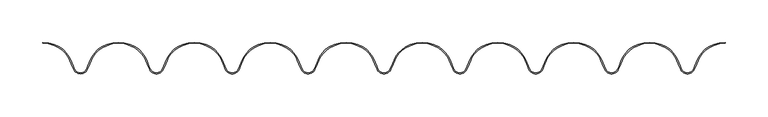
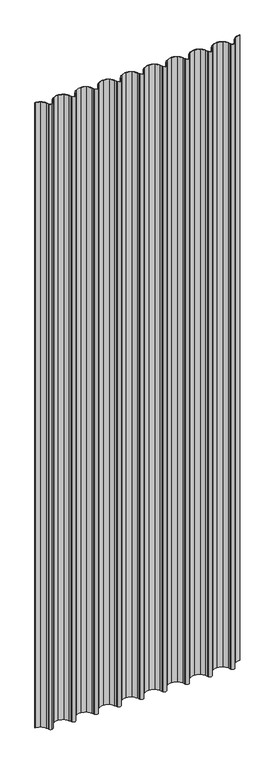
"""IFC4 building model written with IfcOpenShell, lengths in millimetres: plate geometry, Regolare Couverture 801  : Regolare Couverture 801 ."""

from ifc_helpers import new_model, si_unit, point, frame_2d, origin, origin_with_axes, place, context, project, spatial, polyline, circle_curve, trimmed, segment, composite_curve, outline, extrude, source, transform, mapped, element, save


def plate_92b322d1(model_context):
    return source(origin(), model_context, "Body", "SweptSolid", [
        extrude(outline(composite_curve([segment(trimmed(circle_curve(frame_2d((-400.7317009, -1.5098563)), 37.4503244), [point((-381.1909507, 30.4383187))], [point((-400.7317009, 35.9404682))], True, "CARTESIAN"), True, "CONTINUOUS"), segment(polyline([(-400.7317009, 35.9404682), (-400.7317009, 36.9404682)]), True, "CONTINUOUS"), segment(trimmed(circle_curve(frame_2d((-400.7317009, -1.5098563)), 38.4503244), [point((-400.7317009, 36.9404682))], [point((-380.6691729, 31.2914001))], False, "CARTESIAN"), True, "CONTINUOUS"), segment(trimmed(circle_curve(frame_2d((-397.1660556, 4.3198001)), 31.6166783), [point((-380.6691729, 31.2914001))], [point((-367.8105714, 16.0616012))], False, "CARTESIAN"), True, "CONTINUOUS"), segment(polyline([(-367.8105714, 16.0616012), (-364.9413497, 8.8980757), (-363.294996, 5.4633665)]), True, "CONTINUOUS"), segment(trimmed(circle_curve(frame_2d((-356.2059563, 8.8613445)), 7.8613445), [point((-363.294996, 5.4633665))], [point((-356.2059563, 1.0))], True, "CARTESIAN"), True, "CONTINUOUS"), segment(trimmed(circle_curve(frame_2d((-356.2059563, 8.8613445)), 7.8613445), [point((-356.2059563, 1.0))], [point((-349.1169167, 5.4633665))], True, "CARTESIAN"), True, "CONTINUOUS"), segment(polyline([(-349.1169167, 5.4633665), (-347.470563, 8.8980757), (-344.6013413, 16.061601)]), True, "CONTINUOUS"), segment(trimmed(circle_curve(frame_2d((-315.245857, 4.3198001)), 31.6166783), [point((-344.6013413, 16.061601))], [point((-331.7427398, 31.2914001))], False, "CARTESIAN"), True, "CONTINUOUS"), segment(trimmed(circle_curve(frame_2d((-311.6802118, -1.5098563)), 38.4503244), [point((-331.7427398, 31.2914001))], [point((-311.6802118, 36.9404682))], False, "CARTESIAN"), True, "CONTINUOUS"), segment(trimmed(circle_curve(frame_2d((-311.6802118, -1.5098563)), 38.4503244), [point((-311.6802118, 36.9404682))], [point((-291.6176838, 31.2914001))], False, "CARTESIAN"), True, "CONTINUOUS"), segment(trimmed(circle_curve(frame_2d((-308.1145665, 4.3198001)), 31.6166783), [point((-291.6176838, 31.2914001))], [point((-278.7590823, 16.0616012))], False, "CARTESIAN"), True, "CONTINUOUS"), segment(polyline([(-278.7590823, 16.0616012), (-275.8898606, 8.8980757), (-274.2435069, 5.4633665)]), True, "CONTINUOUS"), segment(trimmed(circle_curve(frame_2d((-267.1544672, 8.8613445)), 7.8613445), [point((-274.2435069, 5.4633665))], [point((-260.0654276, 5.4633665))], True, "CARTESIAN"), True, "CONTINUOUS"), segment(polyline([(-260.0654276, 5.4633665), (-258.4190739, 8.8980757), (-255.5498522, 16.0616012)]), True, "CONTINUOUS"), segment(trimmed(circle_curve(frame_2d((-226.1943679, 4.3198001)), 31.6166783), [point((-255.5498522, 16.0616012))], [point((-242.6912507, 31.2914001))], False, "CARTESIAN"), True, "CONTINUOUS"), segment(trimmed(circle_curve(frame_2d((-222.6287227, -1.5098563)), 38.4503244), [point((-242.6912507, 31.2914001))], [point((-222.6287227, 36.9404682))], False, "CARTESIAN"), True, "CONTINUOUS"), segment(trimmed(circle_curve(frame_2d((-222.6287227, -1.5098563)), 38.4503244), [point((-222.6287227, 36.9404682))], [point((-202.5661947, 31.2914001))], False, "CARTESIAN"), True, "CONTINUOUS"), segment(trimmed(circle_curve(frame_2d((-219.0630775, 4.3198001)), 31.6166783), [point((-202.5661947, 31.2914001))], [point((-189.7075932, 16.0616012))], False, "CARTESIAN"), True, "CONTINUOUS"), segment(polyline([(-189.7075932, 16.0616012), (-186.8383715, 8.8980757), (-185.1920178, 5.4633665)]), True, "CONTINUOUS"), segment(trimmed(circle_curve(frame_2d((-178.1029782, 8.8613445)), 7.8613445), [point((-185.1920178, 5.4633665))], [point((-171.0139385, 5.4633665))], True, "CARTESIAN"), True, "CONTINUOUS"), segment(polyline([(-171.0139385, 5.4633665), (-169.3675848, 8.8980757), (-166.4983631, 16.0616012)]), True, "CONTINUOUS"), segment(trimmed(circle_curve(frame_2d((-137.1428789, 4.3198001)), 31.6166783), [point((-166.4983631, 16.0616012))], [point((-153.6397616, 31.2914001))], False, "CARTESIAN"), True, "CONTINUOUS"), segment(trimmed(circle_curve(frame_2d((-133.5772336, -1.5098563)), 38.4503244), [point((-153.6397616, 31.2914001))], [point((-133.5772336, 36.9404682))], False, "CARTESIAN"), True, "CONTINUOUS"), segment(trimmed(circle_curve(frame_2d((-133.5772336, -1.5098563)), 38.4503244), [point((-133.5772336, 36.9404682))], [point((-113.5147056, 31.2914001))], False, "CARTESIAN"), True, "CONTINUOUS"), segment(trimmed(circle_curve(frame_2d((-130.0115884, 4.3198001)), 31.6166783), [point((-113.5147056, 31.2914001))], [point((-100.6561042, 16.0616012))], False, "CARTESIAN"), True, "CONTINUOUS"), segment(polyline([(-100.6561042, 16.0616012), (-97.7868824, 8.8980757), (-96.1405287, 5.4633665)]), True, "CONTINUOUS"), segment(trimmed(circle_curve(frame_2d((-89.0514891, 8.8613445)), 7.8613445), [point((-96.1405287, 5.4633665))], [point((-81.9624494, 5.4633665))], True, "CARTESIAN"), True, "CONTINUOUS"), segment(polyline([(-81.9624494, 5.4633665), (-80.3160957, 8.8980757), (-77.4468741, 16.0616009)]), True, "CONTINUOUS"), segment(trimmed(circle_curve(frame_2d((-48.0913898, 4.3198001)), 31.6166783), [point((-77.4468741, 16.0616009))], [point((-64.5882725, 31.2914001))], False, "CARTESIAN"), True, "CONTINUOUS"), segment(trimmed(circle_curve(frame_2d((-44.5257445, -1.5098563)), 38.4503244), [point((-64.5882725, 31.2914001))], [point((-44.5257445, 36.9404682))], False, "CARTESIAN"), True, "CONTINUOUS"), segment(trimmed(circle_curve(frame_2d((-44.5257445, -1.5098563)), 38.4503244), [point((-44.5257445, 36.9404682))], [point((-24.4632165, 31.2914001))], False, "CARTESIAN"), True, "CONTINUOUS"), segment(trimmed(circle_curve(frame_2d((-40.9600993, 4.3198001)), 31.6166783), [point((-24.4632165, 31.2914001))], [point((-11.6046151, 16.0616012))], False, "CARTESIAN"), True, "CONTINUOUS"), segment(polyline([(-11.6046151, 16.0616012), (-8.7353934, 8.8980757), (-7.0890396, 5.4633665)]), True, "CONTINUOUS"), segment(trimmed(circle_curve(frame_2d((0.0, 8.8613445)), 7.8613445), [point((-7.0890396, 5.4633665))], [point((7.0890396, 5.4633665))], True, "CARTESIAN"), True, "CONTINUOUS"), segment(polyline([(7.0890396, 5.4633665), (10.1613035, 11.8728842), (11.81214, 15.9944927)]), True, "CONTINUOUS"), segment(trimmed(circle_curve(frame_2d((41.1621008, 4.238892)), 31.6166783), [point((11.81214, 15.9944927))], [point((24.665218, 31.210492))], False, "CARTESIAN"), True, "CONTINUOUS"), segment(trimmed(circle_curve(frame_2d((44.727746, -1.5907643)), 38.4503244), [point((24.665218, 31.210492))], [point((44.727746, 36.8595601))], False, "CARTESIAN"), True, "CONTINUOUS"), segment(trimmed(circle_curve(frame_2d((44.727746, -1.5907643)), 38.4503244), [point((44.727746, 36.8595601))], [point((64.790274, 31.210492))], False, "CARTESIAN"), True, "CONTINUOUS"), segment(trimmed(circle_curve(frame_2d((48.2933913, 4.238892)), 31.6166783), [point((64.790274, 31.210492))], [point((77.6433521, 15.9944927))], False, "CARTESIAN"), True, "CONTINUOUS"), segment(polyline([(77.6433521, 15.9944927), (81.3477885, 6.7457044), (81.9624494, 5.4633665)]), True, "CONTINUOUS"), segment(trimmed(circle_curve(frame_2d((89.0514891, 8.8613445)), 7.8613445), [point((81.9624494, 5.4633665))], [point((96.1405287, 5.4633665))], True, "CARTESIAN"), True, "CONTINUOUS"), segment(polyline([(96.1405287, 5.4633665), (97.7868824, 8.8980757), (100.6561041, 16.0616012)]), True, "CONTINUOUS"), segment(trimmed(circle_curve(frame_2d((130.0115884, 4.3198001)), 31.6166783), [point((100.6561041, 16.0616012))], [point((113.5147056, 31.2914001))], False, "CARTESIAN"), True, "CONTINUOUS"), segment(trimmed(circle_curve(frame_2d((133.5772336, -1.5098563)), 38.4503244), [point((113.5147056, 31.2914001))], [point((133.5772336, 36.9404682))], False, "CARTESIAN"), True, "CONTINUOUS"), segment(trimmed(circle_curve(frame_2d((133.5772336, -1.5098563)), 38.4503244), [point((133.5772336, 36.9404682))], [point((153.6397616, 31.2914001))], False, "CARTESIAN"), True, "CONTINUOUS"), segment(trimmed(circle_curve(frame_2d((137.1428789, 4.3198001)), 31.6166783), [point((153.6397616, 31.2914001))], [point((166.4983631, 16.0616012))], False, "CARTESIAN"), True, "CONTINUOUS"), segment(polyline([(166.4983631, 16.0616012), (169.3675848, 8.8980757), (171.0139385, 5.4633665)]), True, "CONTINUOUS"), segment(trimmed(circle_curve(frame_2d((178.1029782, 8.8613445)), 7.8613445), [point((171.0139385, 5.4633665))], [point((185.1920178, 5.4633665))], True, "CARTESIAN"), True, "CONTINUOUS"), segment(polyline([(185.1920178, 5.4633665), (186.8383715, 8.8980757), (189.7075932, 16.0616012)]), True, "CONTINUOUS"), segment(trimmed(circle_curve(frame_2d((219.0630775, 4.3198001)), 31.6166783), [point((189.7075932, 16.0616012))], [point((202.5661947, 31.2914001))], False, "CARTESIAN"), True, "CONTINUOUS"), segment(trimmed(circle_curve(frame_2d((222.6287227, -1.5098563)), 38.4503244), [point((202.5661947, 31.2914001))], [point((222.6287227, 36.9404682))], False, "CARTESIAN"), True, "CONTINUOUS"), segment(trimmed(circle_curve(frame_2d((222.6287227, -1.5098563)), 38.4503244), [point((222.6287227, 36.9404682))], [point((242.6912507, 31.2914001))], False, "CARTESIAN"), True, "CONTINUOUS"), segment(trimmed(circle_curve(frame_2d((226.1943679, 4.3198001)), 31.6166783), [point((242.6912507, 31.2914001))], [point((255.5498521, 16.0616013))], False, "CARTESIAN"), True, "CONTINUOUS"), segment(polyline([(255.5498521, 16.0616013), (258.4190739, 8.8980757), (260.0654276, 5.4633665)]), True, "CONTINUOUS"), segment(trimmed(circle_curve(frame_2d((267.1544672, 8.8613445)), 7.8613445), [point((260.0654276, 5.4633665))], [point((274.2435069, 5.4633665))], True, "CARTESIAN"), True, "CONTINUOUS"), segment(polyline([(274.2435069, 5.4633665), (275.8898606, 8.8980757), (278.7590823, 16.0616012)]), True, "CONTINUOUS"), segment(trimmed(circle_curve(frame_2d((308.1145665, 4.3198001)), 31.6166783), [point((278.7590823, 16.0616012))], [point((291.6176838, 31.2914001))], False, "CARTESIAN"), True, "CONTINUOUS"), segment(trimmed(circle_curve(frame_2d((311.6802118, -1.5098563)), 38.4503244), [point((291.6176838, 31.2914001))], [point((311.6802118, 36.9404682))], False, "CARTESIAN"), True, "CONTINUOUS"), segment(trimmed(circle_curve(frame_2d((311.6802118, -1.5098563)), 38.4503244), [point((311.6802118, 36.9404682))], [point((331.7427398, 31.2914001))], False, "CARTESIAN"), True, "CONTINUOUS"), segment(trimmed(circle_curve(frame_2d((315.245857, 4.3198001)), 31.6166783), [point((331.7427398, 31.2914001))], [point((344.6013413, 16.0616011))], False, "CARTESIAN"), True, "CONTINUOUS"), segment(polyline([(344.6013413, 16.0616011), (347.470563, 8.8980757), (349.1169167, 5.4633665)]), True, "CONTINUOUS"), segment(trimmed(circle_curve(frame_2d((356.2059563, 8.8613445)), 7.8613445), [point((349.1169167, 5.4633665))], [point((363.294996, 5.4633665))], True, "CARTESIAN"), True, "CONTINUOUS"), segment(polyline([(363.294996, 5.4633665), (364.9413497, 8.8980757), (367.8105713, 16.061601)]), True, "CONTINUOUS"), segment(trimmed(circle_curve(frame_2d((397.1660556, 4.3198001)), 31.6166783), [point((367.8105713, 16.061601))], [point((380.6691729, 31.2914001))], False, "CARTESIAN"), True, "CONTINUOUS"), segment(trimmed(circle_curve(frame_2d((400.7317009, -1.5098563)), 38.4503244), [point((380.6691729, 31.2914001))], [point((400.7317009, 36.9404682))], False, "CARTESIAN"), True, "CONTINUOUS"), segment(polyline([(400.7317009, 36.9404682), (400.7317009, 35.9404682)]), True, "CONTINUOUS"), segment(trimmed(circle_curve(frame_2d((400.7317009, -1.5098563)), 37.4503244), [point((400.7317009, 35.9404682))], [point((381.1909507, 30.4383187))], True, "CARTESIAN"), True, "CONTINUOUS"), segment(trimmed(circle_curve(frame_2d((397.1660556, 4.3198001)), 30.6166783), [point((381.1909507, 30.4383187))], [point((368.7389658, 15.6900047))], True, "CARTESIAN"), True, "CONTINUOUS"), segment(polyline([(368.7389658, 15.6900047), (365.8573799, 8.4956098), (364.1967551, 5.0311277)]), True, "CONTINUOUS"), segment(trimmed(circle_curve(frame_2d((356.2059563, 8.8613445)), 8.8613445), [point((364.1967551, 5.0311277))], [point((348.2151575, 5.0311277))], False, "CARTESIAN"), True, "CONTINUOUS"), segment(polyline([(348.2151575, 5.0311277), (346.5545328, 8.4956098), (343.6729469, 15.6900047)]), True, "CONTINUOUS"), segment(trimmed(circle_curve(frame_2d((315.245857, 4.3198001)), 30.6166783), [point((343.6729469, 15.6900047))], [point((331.2209619, 30.4383187))], True, "CARTESIAN"), True, "CONTINUOUS"), segment(trimmed(circle_curve(frame_2d((311.6802118, -1.5098563)), 37.4503244), [point((331.2209619, 30.4383187))], [point((311.6802118, 35.9404682))], True, "CARTESIAN"), True, "CONTINUOUS"), segment(trimmed(circle_curve(frame_2d((311.6802118, -1.5098563)), 37.4503244), [point((311.6802118, 35.9404682))], [point((292.1394616, 30.4383187))], True, "CARTESIAN"), True, "CONTINUOUS"), segment(trimmed(circle_curve(frame_2d((308.1145665, 4.3198001)), 30.6166783), [point((292.1394616, 30.4383187))], [point((279.6874767, 15.6900047))], True, "CARTESIAN"), True, "CONTINUOUS"), segment(polyline([(279.6874767, 15.6900047), (276.8058908, 8.4956098), (275.1452661, 5.0311277)]), True, "CONTINUOUS"), segment(trimmed(circle_curve(frame_2d((267.1544672, 8.8613445)), 8.8613445), [point((275.1452661, 5.0311277))], [point((259.1636684, 5.0311277))], False, "CARTESIAN"), True, "CONTINUOUS"), segment(polyline([(259.1636684, 5.0311277), (257.5030437, 8.4956098), (254.6214578, 15.6900047)]), True, "CONTINUOUS"), segment(trimmed(circle_curve(frame_2d((226.1943679, 4.3198001)), 30.6166783), [point((254.6214578, 15.6900047))], [point((242.1694728, 30.4383187))], True, "CARTESIAN"), True, "CONTINUOUS"), segment(trimmed(circle_curve(frame_2d((222.6287227, -1.5098563)), 37.4503244), [point((242.1694728, 30.4383187))], [point((222.6287227, 35.9404682))], True, "CARTESIAN"), True, "CONTINUOUS"), segment(trimmed(circle_curve(frame_2d((222.6287227, -1.5098563)), 37.4503244), [point((222.6287227, 35.9404682))], [point((203.0879726, 30.4383187))], True, "CARTESIAN"), True, "CONTINUOUS"), segment(trimmed(circle_curve(frame_2d((219.0630775, 4.3198001)), 30.6166783), [point((203.0879726, 30.4383187))], [point((190.6359876, 15.6900047))], True, "CARTESIAN"), True, "CONTINUOUS"), segment(polyline([(190.6359876, 15.6900047), (187.7544017, 8.4956098), (186.093777, 5.0311277)]), True, "CONTINUOUS"), segment(trimmed(circle_curve(frame_2d((178.1029782, 8.8613445)), 8.8613445), [point((186.093777, 5.0311277))], [point((170.1121793, 5.0311277))], False, "CARTESIAN"), True, "CONTINUOUS"), segment(polyline([(170.1121793, 5.0311277), (168.4515546, 8.4956098), (165.5699687, 15.6900047)]), True, "CONTINUOUS"), segment(trimmed(circle_curve(frame_2d((137.1428789, 4.3198001)), 30.6166783), [point((165.5699687, 15.6900047))], [point((153.1179838, 30.4383187))], True, "CARTESIAN"), True, "CONTINUOUS"), segment(trimmed(circle_curve(frame_2d((133.5772336, -1.5098563)), 37.4503244), [point((153.1179838, 30.4383187))], [point((133.5772336, 35.9404682))], True, "CARTESIAN"), True, "CONTINUOUS"), segment(trimmed(circle_curve(frame_2d((133.5772336, -1.5098563)), 37.4503244), [point((133.5772336, 35.9404682))], [point((114.0364835, 30.4383187))], True, "CARTESIAN"), True, "CONTINUOUS"), segment(trimmed(circle_curve(frame_2d((130.0115884, 4.3198001)), 30.6166783), [point((114.0364835, 30.4383187))], [point((101.5844985, 15.6900047))], True, "CARTESIAN"), True, "CONTINUOUS"), segment(polyline([(101.5844985, 15.6900047), (98.7029126, 8.4956098), (97.0422879, 5.0311277)]), True, "CONTINUOUS"), segment(trimmed(circle_curve(frame_2d((89.0514891, 8.8613445)), 8.8613445), [point((97.0422879, 5.0311277))], [point((81.0606903, 5.0311277))], False, "CARTESIAN"), True, "CONTINUOUS"), segment(polyline([(81.0606903, 5.0311277), (79.4000655, 8.4956098), (76.5184796, 15.6900047)]), True, "CONTINUOUS"), segment(trimmed(circle_curve(frame_2d((48.0913898, 4.3198001)), 30.6166783), [point((76.5184796, 15.6900047))], [point((64.0664947, 30.4383187))], True, "CARTESIAN"), True, "CONTINUOUS"), segment(trimmed(circle_curve(frame_2d((44.5257445, -1.5098563)), 37.4503244), [point((64.0664947, 30.4383187))], [point((44.5257445, 35.9404682))], True, "CARTESIAN"), True, "CONTINUOUS"), segment(trimmed(circle_curve(frame_2d((44.5257445, -1.5098563)), 37.4503244), [point((44.5257445, 35.9404682))], [point((24.9849944, 30.4383187))], True, "CARTESIAN"), True, "CONTINUOUS"), segment(trimmed(circle_curve(frame_2d((40.9600993, 4.3198001)), 30.6166783), [point((24.9849944, 30.4383187))], [point((12.5330095, 15.6900048))], True, "CARTESIAN"), True, "CONTINUOUS"), segment(polyline([(12.5330095, 15.6900048), (9.6514235, 8.4956098), (7.9907988, 5.0311277)]), True, "CONTINUOUS"), segment(trimmed(circle_curve(frame_2d((0.0, 8.8613445)), 8.8613445), [point((7.9907988, 5.0311277))], [point((-7.9907988, 5.0311277))], False, "CARTESIAN"), True, "CONTINUOUS"), segment(polyline([(-7.9907988, 5.0311277), (-9.6514235, 8.4956098), (-12.5330095, 15.6900047)]), True, "CONTINUOUS"), segment(trimmed(circle_curve(frame_2d((-40.9600993, 4.3198001)), 30.6166783), [point((-12.5330095, 15.6900047))], [point((-24.9849944, 30.4383187))], True, "CARTESIAN"), True, "CONTINUOUS"), segment(trimmed(circle_curve(frame_2d((-44.5257445, -1.5098563)), 37.4503244), [point((-24.9849944, 30.4383187))], [point((-44.5257445, 35.9404682))], True, "CARTESIAN"), True, "CONTINUOUS"), segment(trimmed(circle_curve(frame_2d((-44.5257445, -1.5098563)), 37.4503244), [point((-44.5257445, 35.9404682))], [point((-64.0664947, 30.4383187))], True, "CARTESIAN"), True, "CONTINUOUS"), segment(trimmed(circle_curve(frame_2d((-48.0913898, 4.3198001)), 30.6166783), [point((-64.0664947, 30.4383187))], [point((-76.5184796, 15.6900047))], True, "CARTESIAN"), True, "CONTINUOUS"), segment(polyline([(-76.5184796, 15.6900047), (-79.4000655, 8.4956098), (-81.0606903, 5.0311277)]), True, "CONTINUOUS"), segment(trimmed(circle_curve(frame_2d((-89.0514891, 8.8613445)), 8.8613445), [point((-81.0606903, 5.0311277))], [point((-97.0422879, 5.0311277))], False, "CARTESIAN"), True, "CONTINUOUS"), segment(polyline([(-97.0422879, 5.0311277), (-98.7029126, 8.4956098), (-101.5844985, 15.6900047)]), True, "CONTINUOUS"), segment(trimmed(circle_curve(frame_2d((-130.0115884, 4.3198001)), 30.6166783), [point((-101.5844985, 15.6900047))], [point((-114.0364835, 30.4383187))], True, "CARTESIAN"), True, "CONTINUOUS"), segment(trimmed(circle_curve(frame_2d((-133.5772336, -1.5098563)), 37.4503244), [point((-114.0364835, 30.4383187))], [point((-133.5772336, 35.9404682))], True, "CARTESIAN"), True, "CONTINUOUS"), segment(trimmed(circle_curve(frame_2d((-133.5772336, -1.5098563)), 37.4503244), [point((-133.5772336, 35.9404682))], [point((-153.1179838, 30.4383187))], True, "CARTESIAN"), True, "CONTINUOUS"), segment(trimmed(circle_curve(frame_2d((-137.1428789, 4.3198001)), 30.6166783), [point((-153.1179838, 30.4383187))], [point((-165.5699687, 15.6900047))], True, "CARTESIAN"), True, "CONTINUOUS"), segment(polyline([(-165.5699687, 15.6900047), (-168.4515546, 8.4956098), (-170.1121793, 5.0311277)]), True, "CONTINUOUS"), segment(trimmed(circle_curve(frame_2d((-178.1029782, 8.8613445)), 8.8613445), [point((-170.1121793, 5.0311277))], [point((-186.093777, 5.0311277))], False, "CARTESIAN"), True, "CONTINUOUS"), segment(polyline([(-186.093777, 5.0311277), (-187.7544017, 8.4956098), (-190.6359876, 15.6900047)]), True, "CONTINUOUS"), segment(trimmed(circle_curve(frame_2d((-219.0630775, 4.3198001)), 30.6166783), [point((-190.6359876, 15.6900047))], [point((-203.0879726, 30.4383187))], True, "CARTESIAN"), True, "CONTINUOUS"), segment(trimmed(circle_curve(frame_2d((-222.6287227, -1.5098563)), 37.4503244), [point((-203.0879726, 30.4383187))], [point((-222.6287227, 35.9404682))], True, "CARTESIAN"), True, "CONTINUOUS"), segment(trimmed(circle_curve(frame_2d((-222.6287227, -1.5098563)), 37.4503244), [point((-222.6287227, 35.9404682))], [point((-242.1694728, 30.4383187))], True, "CARTESIAN"), True, "CONTINUOUS"), segment(trimmed(circle_curve(frame_2d((-226.1943679, 4.3198001)), 30.6166783), [point((-242.1694728, 30.4383187))], [point((-254.6214578, 15.6900047))], True, "CARTESIAN"), True, "CONTINUOUS"), segment(polyline([(-254.6214578, 15.6900047), (-257.5030437, 8.4956098), (-259.1636684, 5.0311277)]), True, "CONTINUOUS"), segment(trimmed(circle_curve(frame_2d((-267.1544672, 8.8613445)), 8.8613445), [point((-259.1636684, 5.0311277))], [point((-275.1452661, 5.0311277))], False, "CARTESIAN"), True, "CONTINUOUS"), segment(polyline([(-275.1452661, 5.0311277), (-276.8058908, 8.4956098), (-279.6874767, 15.6900047)]), True, "CONTINUOUS"), segment(trimmed(circle_curve(frame_2d((-308.1145665, 4.3198001)), 30.6166783), [point((-279.6874767, 15.6900047))], [point((-292.1394616, 30.4383187))], True, "CARTESIAN"), True, "CONTINUOUS"), segment(trimmed(circle_curve(frame_2d((-311.6802118, -1.5098563)), 37.4503244), [point((-292.1394616, 30.4383187))], [point((-311.6802118, 35.9404682))], True, "CARTESIAN"), True, "CONTINUOUS"), segment(trimmed(circle_curve(frame_2d((-311.6802118, -1.5098563)), 37.4503244), [point((-311.6802118, 35.9404682))], [point((-331.2209619, 30.4383187))], True, "CARTESIAN"), True, "CONTINUOUS"), segment(trimmed(circle_curve(frame_2d((-315.245857, 4.3198001)), 30.6166783), [point((-331.2209619, 30.4383187))], [point((-343.6729469, 15.6900047))], True, "CARTESIAN"), True, "CONTINUOUS"), segment(polyline([(-343.6729469, 15.6900047), (-346.5545328, 8.4956098), (-348.2151575, 5.0311277)]), True, "CONTINUOUS"), segment(trimmed(circle_curve(frame_2d((-356.2059563, 8.8613445)), 8.8613445), [point((-348.2151575, 5.0311277))], [point((-356.2059563, 0.0))], False, "CARTESIAN"), True, "CONTINUOUS"), segment(trimmed(circle_curve(frame_2d((-356.2059563, 8.8613445)), 8.8613445), [point((-356.2059563, 0.0))], [point((-364.1967551, 5.0311277))], False, "CARTESIAN"), True, "CONTINUOUS"), segment(polyline([(-364.1967551, 5.0311277), (-365.8573799, 8.4956098), (-368.7389658, 15.6900047)]), True, "CONTINUOUS"), segment(trimmed(circle_curve(frame_2d((-397.1660556, 4.3198001)), 30.6166783), [point((-368.7389658, 15.6900047))], [point((-381.1909507, 30.4383187))], True, "CARTESIAN"), True, "CONTINUOUS")], self_intersect=False)), origin_with_axes(), (0.0, 0.0, 1.0), 2588.190451),
    ])


if __name__ == "__main__":
    model = new_model("IFC4")
    model_context = context("Model", 3, world=origin())
    ifc_project = project(units=[si_unit("LENGTHUNIT", "METRE", prefix="MILLI")], contexts=[model_context])
    site = spatial("IfcSite", under=ifc_project)
    building = spatial("IfcBuilding", under=site)
    placement = place(None, origin())
    plate_shape = plate_92b322d1(model_context)
    element("IfcPlate", 1, ObjectType="Regolare Couverture 801  : Regolare Couverture 801 ", at=placement, inside=building, context=model_context, shape_type="MappedRepresentation", body=[
        mapped(plate_shape, transform((0.0, 0.0, 0.0), x_axis=(1.0, 0.0, 0.0), y_axis=(0.0, 1.0, 0.0), z_axis=(0.0, 0.0, 1.0))),
    ])
    save(model, "model.ifc")
